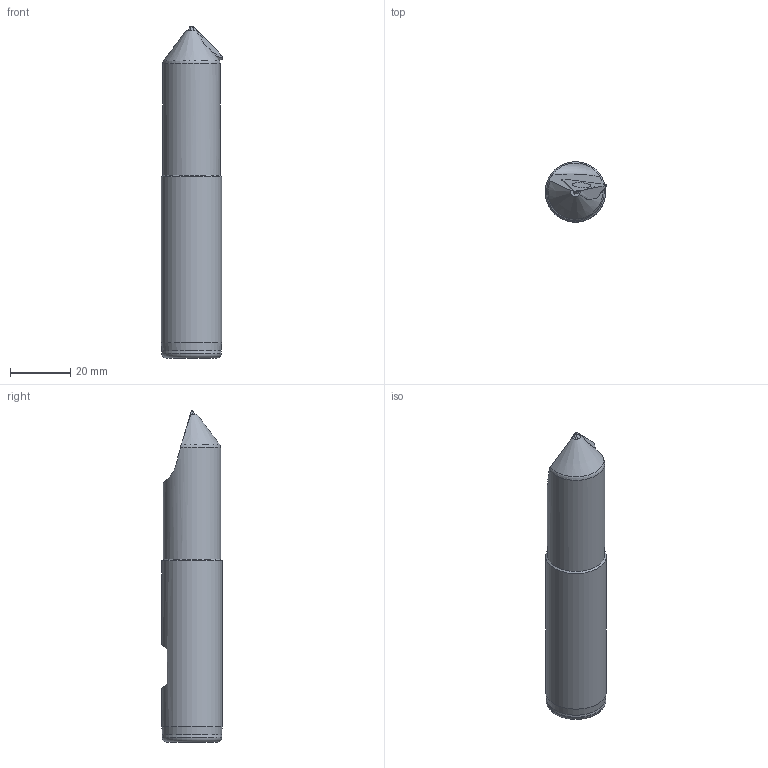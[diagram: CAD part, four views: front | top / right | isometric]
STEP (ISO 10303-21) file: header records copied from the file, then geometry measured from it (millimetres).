
FILE_DESCRIPTION(/* description */ (''),/* implementation_level */ '2;1');
FILE_NAME(/* name */ 'CE45-1600R-S20-HAAS.stp',/* time_stamp */ '2021-09-28T15:57:39+09:00',/* author */ (''),/* organization */ (''),/* preprocessor_version */ 'ST-DEVELOPER v11',/* originating_system */ 'SIEMENS UGS NX 6.0',/* authorisation */ '');
FILE_SCHEMA (('CONFIG_CONTROL_DESIGN'));
Length unit declared in the file: millimetre
Products named in the file (1): userC0792feb
Bounding box: 20.39 x 20 x 110 mm (x, y, z)
Volume: 29831.5 mm3; surface area: 7077.8 mm2
Topology: 2 solids, 2 shells, 38 faces, 94 edges, 61 vertices
Faces by surface type: plane 20, cone 10, cylinder 5, torus 3
Full cylindrical faces by diameter (mm): 6.25 x1, 19 x1, 19.8 x1, 20 x1
Entity records: 1222 total; most frequent: CARTESIAN_POINT 284, DIRECTION 173, ORIENTED_EDGE 168, EDGE_CURVE 84, AXIS2_PLACEMENT_3D 69, VERTEX_POINT 59, EDGE_LOOP 49, ADVANCED_FACE 38
